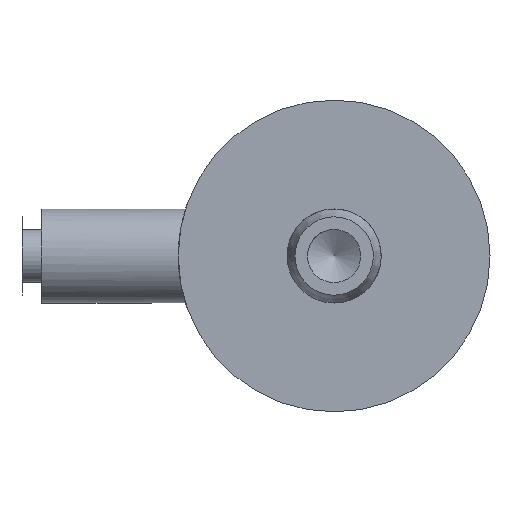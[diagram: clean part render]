
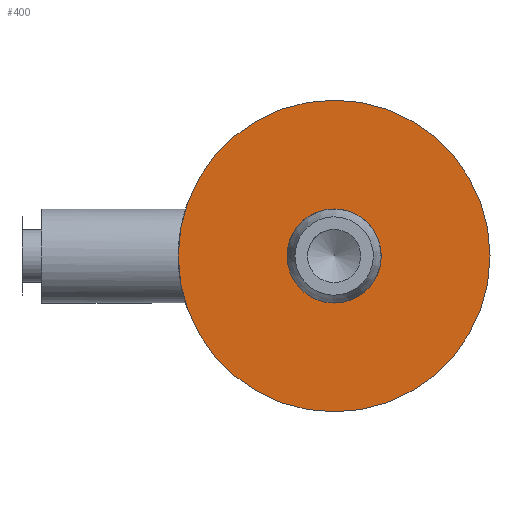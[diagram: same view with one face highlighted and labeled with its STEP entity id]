
A CAD part, left-side view. The second image highlights one B-rep face of the part: STEP entity #400.
In plain terms, the highlighted planar face has unit normal (-1, 0, 0).
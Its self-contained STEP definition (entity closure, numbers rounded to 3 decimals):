
#18=PLANE('',#473);
#30=FACE_BOUND('',#78,.T.);
#53=FACE_OUTER_BOUND('',#77,.T.);
#77=EDGE_LOOP('',(#339,#340));
#78=EDGE_LOOP('',(#341,#342));
#149=CIRCLE('',#459,1.195);
#150=CIRCLE('',#460,1.195);
#156=CIRCLE('',#469,3.96);
#157=CIRCLE('',#470,3.96);
#188=VERTEX_POINT('',#686);
#189=VERTEX_POINT('',#688);
#198=VERTEX_POINT('',#746);
#199=VERTEX_POINT('',#748);
#238=EDGE_CURVE('',#188,#189,#149,.T.);
#239=EDGE_CURVE('',#189,#188,#150,.T.);
#250=EDGE_CURVE('',#199,#198,#156,.T.);
#251=EDGE_CURVE('',#198,#199,#157,.T.);
#339=ORIENTED_EDGE('',*,*,#250,.T.);
#340=ORIENTED_EDGE('',*,*,#251,.T.);
#341=ORIENTED_EDGE('',*,*,#239,.F.);
#342=ORIENTED_EDGE('',*,*,#238,.F.);
#400=ADVANCED_FACE('',(#53,#30),#18,.T.);
#459=AXIS2_PLACEMENT_3D('',#689,#554,#555);
#460=AXIS2_PLACEMENT_3D('',#690,#556,#557);
#469=AXIS2_PLACEMENT_3D('',#749,#577,#578);
#470=AXIS2_PLACEMENT_3D('',#750,#579,#580);
#473=AXIS2_PLACEMENT_3D('',#753,#585,#586);
#554=DIRECTION('center_axis',(-1.,0.,0.));
#555=DIRECTION('ref_axis',(0.,-1.,0.));
#556=DIRECTION('center_axis',(-1.,0.,0.));
#557=DIRECTION('ref_axis',(0.,-1.,0.));
#577=DIRECTION('center_axis',(-1.,0.,0.));
#578=DIRECTION('ref_axis',(0.,-1.,0.));
#579=DIRECTION('center_axis',(-1.,0.,0.));
#580=DIRECTION('ref_axis',(0.,-1.,0.));
#585=DIRECTION('center_axis',(-1.,0.,0.));
#586=DIRECTION('ref_axis',(0.,0.,1.));
#686=CARTESIAN_POINT('',(-6.375,0.,-1.195));
#688=CARTESIAN_POINT('',(-6.375,1.195,0.));
#689=CARTESIAN_POINT('Origin',(-6.375,0.,0.));
#690=CARTESIAN_POINT('Origin',(-6.375,0.,0.));
#746=CARTESIAN_POINT('',(-6.375,0.,-3.96));
#748=CARTESIAN_POINT('',(-6.375,-3.96,0.));
#749=CARTESIAN_POINT('Origin',(-6.375,0.,0.));
#750=CARTESIAN_POINT('Origin',(-6.375,0.,0.));
#753=CARTESIAN_POINT('Origin',(-6.375,0.,-4.008));
